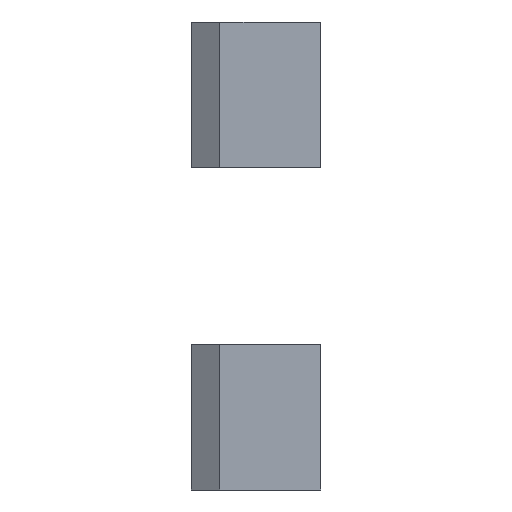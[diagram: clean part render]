
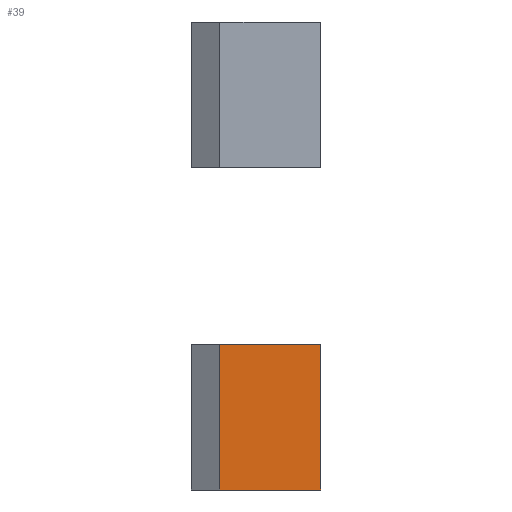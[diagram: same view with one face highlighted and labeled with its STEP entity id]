
A CAD part, left-side view. The second image highlights one B-rep face of the part: STEP entity #39.
In plain terms, the highlighted planar face has unit normal (-1, 0, 0).
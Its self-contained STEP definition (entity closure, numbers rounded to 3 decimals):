
#39 = ADVANCED_FACE('',(#40),#54,.F.);
#40 = FACE_BOUND('',#41,.F.);
#41 = EDGE_LOOP('',(#42,#77,#105,#131));
#42 = ORIENTED_EDGE('',*,*,#43,.F.);
#43 = EDGE_CURVE('',#44,#46,#48,.T.);
#44 = VERTEX_POINT('',#45);
#45 = CARTESIAN_POINT('',(95.,-23.235,-25.));
#46 = VERTEX_POINT('',#47);
#47 = CARTESIAN_POINT('',(95.,-34.,-25.));
#48 = SURFACE_CURVE('',#49,(#53,#65),.PCURVE_S1.);
#49 = LINE('',#50,#51);
#50 = CARTESIAN_POINT('',(95.,-23.235,-25.));
#51 = VECTOR('',#52,1.);
#52 = DIRECTION('',(0.,-1.,0.));
#53 = PCURVE('',#54,#59);
#54 = PLANE('',#55);
#55 = AXIS2_PLACEMENT_3D('',#56,#57,#58);
#56 = CARTESIAN_POINT('',(95.,-23.235,-25.));
#57 = DIRECTION('',(1.,0.,-0.));
#58 = DIRECTION('',(0.,-1.,0.));
#59 = DEFINITIONAL_REPRESENTATION('',(#60),#64);
#60 = LINE('',#61,#62);
#61 = CARTESIAN_POINT('',(0.,0.));
#62 = VECTOR('',#63,1.);
#63 = DIRECTION('',(1.,0.));
#64 = ( GEOMETRIC_REPRESENTATION_CONTEXT(2) 
PARAMETRIC_REPRESENTATION_CONTEXT() REPRESENTATION_CONTEXT('2D SPACE',''
  ) );
#65 = PCURVE('',#66,#71);
#66 = PLANE('',#67);
#67 = AXIS2_PLACEMENT_3D('',#68,#69,#70);
#68 = CARTESIAN_POINT('',(96.867,-26.641,-25.));
#69 = DIRECTION('',(0.,0.,1.));
#70 = DIRECTION('',(1.,0.,-0.));
#71 = DEFINITIONAL_REPRESENTATION('',(#72),#76);
#72 = LINE('',#73,#74);
#73 = CARTESIAN_POINT('',(-1.867,3.406));
#74 = VECTOR('',#75,1.);
#75 = DIRECTION('',(0.,-1.));
#76 = ( GEOMETRIC_REPRESENTATION_CONTEXT(2) 
PARAMETRIC_REPRESENTATION_CONTEXT() REPRESENTATION_CONTEXT('2D SPACE',''
  ) );
#77 = ORIENTED_EDGE('',*,*,#78,.T.);
#78 = EDGE_CURVE('',#44,#79,#81,.T.);
#79 = VERTEX_POINT('',#80);
#80 = CARTESIAN_POINT('',(95.,-23.235,-9.5));
#81 = SURFACE_CURVE('',#82,(#86,#93),.PCURVE_S1.);
#82 = LINE('',#83,#84);
#83 = CARTESIAN_POINT('',(95.,-23.235,-25.));
#84 = VECTOR('',#85,1.);
#85 = DIRECTION('',(0.,0.,1.));
#86 = PCURVE('',#54,#87);
#87 = DEFINITIONAL_REPRESENTATION('',(#88),#92);
#88 = LINE('',#89,#90);
#89 = CARTESIAN_POINT('',(0.,0.));
#90 = VECTOR('',#91,1.);
#91 = DIRECTION('',(0.,-1.));
#92 = ( GEOMETRIC_REPRESENTATION_CONTEXT(2) 
PARAMETRIC_REPRESENTATION_CONTEXT() REPRESENTATION_CONTEXT('2D SPACE',''
  ) );
#93 = PCURVE('',#94,#99);
#94 = PLANE('',#95);
#95 = AXIS2_PLACEMENT_3D('',#96,#97,#98);
#96 = CARTESIAN_POINT('',(97.,-20.2,-25.));
#97 = DIRECTION('',(0.835,-0.55,0.));
#98 = DIRECTION('',(-0.55,-0.835,0.));
#99 = DEFINITIONAL_REPRESENTATION('',(#100),#104);
#100 = LINE('',#101,#102);
#101 = CARTESIAN_POINT('',(3.635,0.));
#102 = VECTOR('',#103,1.);
#103 = DIRECTION('',(0.,-1.));
#104 = ( GEOMETRIC_REPRESENTATION_CONTEXT(2) 
PARAMETRIC_REPRESENTATION_CONTEXT() REPRESENTATION_CONTEXT('2D SPACE',''
  ) );
#105 = ORIENTED_EDGE('',*,*,#106,.T.);
#106 = EDGE_CURVE('',#79,#107,#109,.T.);
#107 = VERTEX_POINT('',#108);
#108 = CARTESIAN_POINT('',(95.,-34.,-9.5));
#109 = SURFACE_CURVE('',#110,(#114,#120),.PCURVE_S1.);
#110 = LINE('',#111,#112);
#111 = CARTESIAN_POINT('',(95.,-41.618,-9.5));
#112 = VECTOR('',#113,1.);
#113 = DIRECTION('',(0.,-1.,0.));
#114 = PCURVE('',#54,#115);
#115 = DEFINITIONAL_REPRESENTATION('',(#116),#119);
#116 = B_SPLINE_CURVE_WITH_KNOTS('',1,(#117,#118),.UNSPECIFIED.,.F.,.F.,
  (2,2),(-18.382,-7.618),.PIECEWISE_BEZIER_KNOTS.);
#117 = CARTESIAN_POINT('',(0.,-15.5));
#118 = CARTESIAN_POINT('',(10.765,-15.5));
#119 = ( GEOMETRIC_REPRESENTATION_CONTEXT(2) 
PARAMETRIC_REPRESENTATION_CONTEXT() REPRESENTATION_CONTEXT('2D SPACE',''
  ) );
#120 = PCURVE('',#121,#126);
#121 = PLANE('',#122);
#122 = AXIS2_PLACEMENT_3D('',#123,#124,#125);
#123 = CARTESIAN_POINT('',(52.,-60.,-9.5));
#124 = DIRECTION('',(0.,0.,1.));
#125 = DIRECTION('',(1.,0.,0.));
#126 = DEFINITIONAL_REPRESENTATION('',(#127),#130);
#127 = B_SPLINE_CURVE_WITH_KNOTS('',1,(#128,#129),.UNSPECIFIED.,.F.,.F.,
  (2,2),(-18.382,-7.618),.PIECEWISE_BEZIER_KNOTS.);
#128 = CARTESIAN_POINT('',(43.,36.765));
#129 = CARTESIAN_POINT('',(43.,26.));
#130 = ( GEOMETRIC_REPRESENTATION_CONTEXT(2) 
PARAMETRIC_REPRESENTATION_CONTEXT() REPRESENTATION_CONTEXT('2D SPACE',''
  ) );
#131 = ORIENTED_EDGE('',*,*,#132,.F.);
#132 = EDGE_CURVE('',#46,#107,#133,.T.);
#133 = SURFACE_CURVE('',#134,(#138,#145),.PCURVE_S1.);
#134 = LINE('',#135,#136);
#135 = CARTESIAN_POINT('',(95.,-34.,-25.));
#136 = VECTOR('',#137,1.);
#137 = DIRECTION('',(0.,0.,1.));
#138 = PCURVE('',#54,#139);
#139 = DEFINITIONAL_REPRESENTATION('',(#140),#144);
#140 = LINE('',#141,#142);
#141 = CARTESIAN_POINT('',(10.765,0.));
#142 = VECTOR('',#143,1.);
#143 = DIRECTION('',(0.,-1.));
#144 = ( GEOMETRIC_REPRESENTATION_CONTEXT(2) 
PARAMETRIC_REPRESENTATION_CONTEXT() REPRESENTATION_CONTEXT('2D SPACE',''
  ) );
#145 = PCURVE('',#146,#151);
#146 = PLANE('',#147);
#147 = AXIS2_PLACEMENT_3D('',#148,#149,#150);
#148 = CARTESIAN_POINT('',(95.,-34.,-25.));
#149 = DIRECTION('',(0.,1.,0.));
#150 = DIRECTION('',(1.,0.,0.));
#151 = DEFINITIONAL_REPRESENTATION('',(#152),#156);
#152 = LINE('',#153,#154);
#153 = CARTESIAN_POINT('',(0.,0.));
#154 = VECTOR('',#155,1.);
#155 = DIRECTION('',(0.,-1.));
#156 = ( GEOMETRIC_REPRESENTATION_CONTEXT(2) 
PARAMETRIC_REPRESENTATION_CONTEXT() REPRESENTATION_CONTEXT('2D SPACE',''
  ) );
